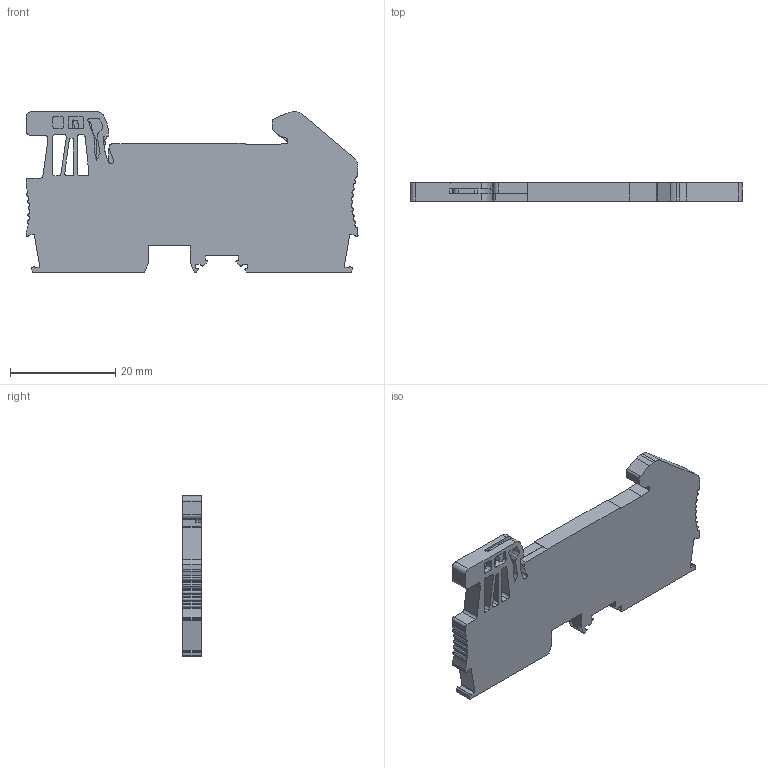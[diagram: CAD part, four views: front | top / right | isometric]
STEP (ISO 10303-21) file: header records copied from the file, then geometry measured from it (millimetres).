
FILE_DESCRIPTION((''),'2;1');
FILE_NAME('UPT-1_5-2-2PE_ASSY','2024-03-29T16:07:54',('Administrator'),(''),'CREO PARAMETRIC BY PTC INC, 2018050','CREO PARAMETRIC BY PTC INC, 2018050','');
FILE_SCHEMA(('CONFIG_CONTROL_DESIGN'));
Length unit declared in the file: millimetre
Products named in the file (1): UPT-1_5-2-2PE_ASSY
Bounding box: 63.2 x 3.5 x 30.5 mm (x, y, z)
Volume: 4820 mm3; surface area: 4793.8 mm2
Topology: 1 solids, 3 shells, 1249 faces, 3378 edges, 2083 vertices
Faces by surface type: plane 552, cylinder 506, sphere 64, torus 50, cone 49, extrusion 16, bspline 12
Entity records: 41814 total; most frequent: CARTESIAN_POINT 10465, ORIENTED_EDGE 6624, DIRECTION 6585, EDGE_CURVE 3312, AXIS2_PLACEMENT_3D 2270, VERTEX_POINT 2083, VECTOR 2045, LINE 2029
